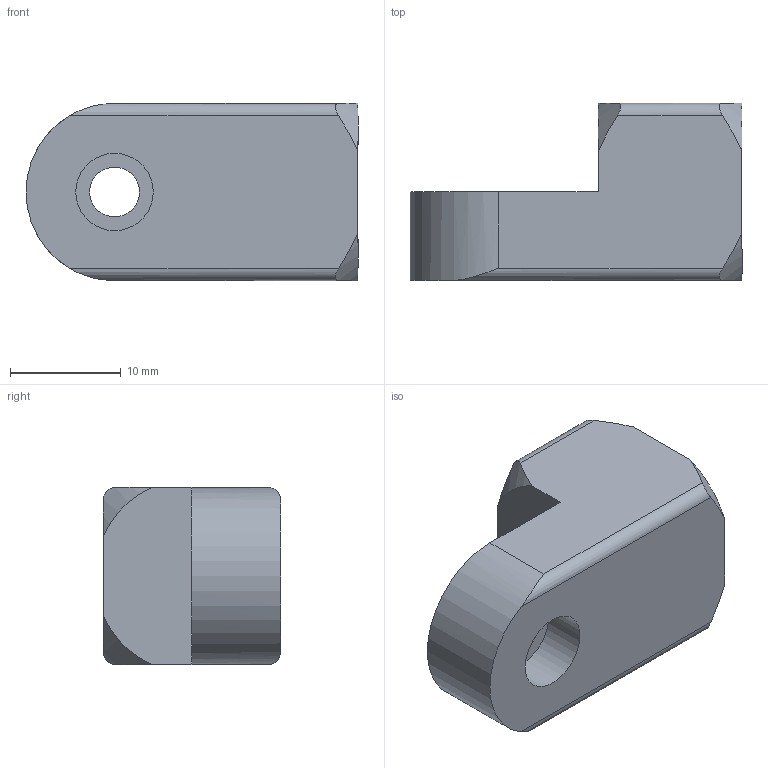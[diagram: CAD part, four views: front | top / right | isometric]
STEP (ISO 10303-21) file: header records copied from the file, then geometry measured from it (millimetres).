
FILE_DESCRIPTION( ( 'STEP AP203' ), '1' );
FILE_NAME( 'C:/Temp/Ganter_Step_05_03_2020/data/3_7/gn_484/Attachment clamp mounting GN 484-M5-16-MT.stp', '2020-03-12T14:46:56', ( 'License CC BY-ND 4.0' ), ( 'CADENAS' ), ' ', 'PARTsolutions', ' ' );
FILE_SCHEMA( ( 'CONFIG_CONTROL_DESIGN' ) );
Length unit declared in the file: millimetre
Products named in the file (1): _Attachment clamp mounting GN 484-M5-16-MT
Bounding box: 30 x 16 x 16 mm (x, y, z)
Volume: 4831.5 mm3; surface area: 2238.6 mm2
Topology: 1 solids, 1 shells, 25 faces, 60 edges, 40 vertices
Faces by surface type: plane 10, cylinder 9, cone 6
Full cylindrical faces by diameter (mm): 4.134 x1, 4.5 x1, 7 x2
Entity records: 872 total; most frequent: CARTESIAN_POINT 276, ORIENTED_EDGE 112, DIRECTION 104, EDGE_CURVE 56, AXIS2_PLACEMENT_3D 42, VERTEX_POINT 40, EDGE_LOOP 34, FACE_OUTER_BOUND 29
